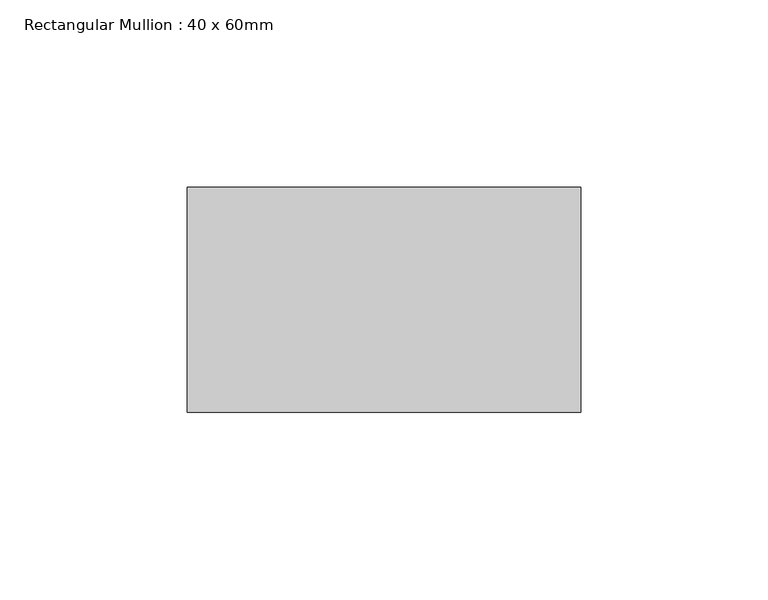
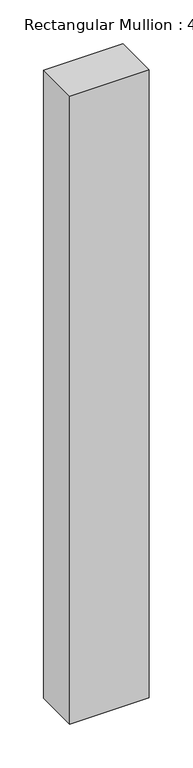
"""IFC4 building model written with IfcOpenShell, lengths in millimetres: member geometry, Rectangular Mullion : 40 x 60mm."""

import ifcopenshell
import ifcopenshell.guid

model = None  # the IFC model being written
_history = None  # IfcOwnerHistory: only IFC2X3 demands one
_inside = {}  # id of a spatial element -> (the spatial element, [elements in it])
_under = {}  # id of a project, library or spatial element -> (it, [spatial elements below it])
_declared = {}  # id of a project -> (the project, [libraries it declares])
_typed = {}  # id of a type object -> (the type object, [elements of that type])
_made_of = {}  # id of a material, layer set ... -> (it, [elements and type objects made of it])


def new_model(schema):
    """Start an empty IFC model of exactly this schema.

    Asked for "IFC4X3", IfcOpenShell would pick the latest addendum, in which some entities
    have other attributes; the version numbers below select the first issue.
    IFC2X3 requires an IfcOwnerHistory on every rooted entity: one is made here for all.
    """
    global model, _history
    if schema == "IFC4X3":
        model = ifcopenshell.file(schema_version=(4, 3, 0, 0))
    else:
        model = ifcopenshell.file(schema=schema)
    _inside.clear()
    _under.clear()
    _declared.clear()
    _typed.clear()
    _made_of.clear()
    _history = None
    if model.schema == "IFC2X3":
        org = make("IfcOrganization", Name="unknown")
        user = make(
            "IfcPersonAndOrganization",
            ThePerson=make("IfcPerson", FamilyName="unknown"),
            TheOrganization=org,
        )
        app = make(
            "IfcApplication",
            ApplicationDeveloper=org,
            Version="unknown",
            ApplicationFullName="unknown",
            ApplicationIdentifier="unknown",
        )
        _history = make(
            "IfcOwnerHistory",
            OwningUser=user,
            OwningApplication=app,
            ChangeAction="ADDED",
            CreationDate=0,
        )
    return model


def make(cls, **values):
    """One entity of the class cls with the attributes given. An attribute that is None is left unset."""
    return model.create_entity(
        cls, **{name: value for name, value in values.items() if value is not None}
    )


def rooted(cls, **values):
    """An entity with a GlobalId (a new one), such as an element, a storey or a relation."""
    return make(cls, GlobalId=ifcopenshell.guid.new(), OwnerHistory=_history, **values)


def si_unit(unit_type, name, prefix=None):
    """IfcSIUnit, for example si_unit("LENGTHUNIT", "METRE", prefix="MILLI")."""
    return make("IfcSIUnit", UnitType=unit_type, Prefix=prefix, Name=name)


def assignment(units):
    """IfcUnitAssignment: the units of a project."""
    return None if units is None else make("IfcUnitAssignment", Units=units)


def point(xyz):
    """IfcCartesianPoint."""
    return None if xyz is None else make("IfcCartesianPoint", Coordinates=xyz)


def direction(xyz):
    """IfcDirection."""
    return None if xyz is None else make("IfcDirection", DirectionRatios=xyz)


def frame(location, z_axis=None, x_axis=None):
    """IfcAxis2Placement3D, a coordinate frame: its origin and axes. An axis left out is left unset."""
    return make(
        "IfcAxis2Placement3D",
        Location=point(location),
        Axis=direction(z_axis),
        RefDirection=direction(x_axis),
    )


def origin():
    """The frame at (0, 0, 0) with its axes left unset."""
    return frame((0.0, 0.0, 0.0))


def place(relative_to, where):
    """IfcLocalPlacement: puts the frame where relative to a parent placement (None: the world)."""
    return make(
        "IfcLocalPlacement", PlacementRelTo=relative_to, RelativePlacement=where
    )


def context(
    kind, dimensions, precision=None, world=None, true_north=None, identifier=None
):
    """IfcGeometricRepresentationContext, for example the 3D "Model" context."""
    return make(
        "IfcGeometricRepresentationContext",
        ContextIdentifier=identifier,
        ContextType=kind,
        CoordinateSpaceDimension=dimensions,
        Precision=precision,
        WorldCoordinateSystem=world,
        TrueNorth=true_north,
    )


def project(units=None, contexts=None):
    """IfcProject with its units and contexts."""
    return rooted(
        "IfcProject",
        Name="project",
        RepresentationContexts=contexts,
        UnitsInContext=assignment(units),
    )


def spatial(cls, under=None, at=None, **own):
    """A site, building, storey or space (cls), placed at a placement, below another one or the project."""
    s = rooted(cls, ObjectPlacement=at, **own)
    if under is not None:
        _under.setdefault(under.id(), (under, []))[1].append(s)
    return s


def polyline(points):
    """IfcPolyline through the points."""
    return make("IfcPolyline", Points=[point(p) for p in points])


def outline(outer, holes=None, kind="AREA"):
    """IfcArbitraryClosedProfileDef: a profile drawn as a closed curve; with holes, ...WithVoids."""
    if holes is None:
        return make("IfcArbitraryClosedProfileDef", ProfileType=kind, OuterCurve=outer)
    return make(
        "IfcArbitraryProfileDefWithVoids",
        ProfileType=kind,
        OuterCurve=outer,
        InnerCurves=holes,
    )


def extrude(swept, where, along, depth):
    """IfcExtrudedAreaSolid: the profile swept, set in the frame where, extruded along a direction by depth."""
    return make(
        "IfcExtrudedAreaSolid",
        SweptArea=swept,
        Position=where,
        ExtrudedDirection=direction(along),
        Depth=depth,
    )


def shape(context_of_items, identifier, shape_type, items):
    """IfcShapeRepresentation: the items that make up one representation, for example the "Body"."""
    return make(
        "IfcShapeRepresentation",
        ContextOfItems=context_of_items,
        RepresentationIdentifier=identifier,
        RepresentationType=shape_type,
        Items=items,
    )


def source(mapping_origin, context_of_items, identifier, shape_type, items):
    """IfcRepresentationMap: a shape defined once, which mapped items show again and again."""
    return make(
        "IfcRepresentationMap",
        MappingOrigin=mapping_origin,
        MappedRepresentation=shape(context_of_items, identifier, shape_type, items),
    )


def transform(
    local_origin,
    x_axis=None,
    y_axis=None,
    z_axis=None,
    scale=None,
    scale2=None,
    scale3=None,
    uniform=True,
):
    """IfcCartesianTransformationOperator3D, or its non-uniform kind. x_axis, y_axis, z_axis: its Axis1, 2, 3."""
    if uniform:
        return make(
            "IfcCartesianTransformationOperator3D",
            Axis1=direction(x_axis),
            Axis2=direction(y_axis),
            LocalOrigin=point(local_origin),
            Scale=scale,
            Axis3=direction(z_axis),
        )
    return make(
        "IfcCartesianTransformationOperator3DnonUniform",
        Axis1=direction(x_axis),
        Axis2=direction(y_axis),
        LocalOrigin=point(local_origin),
        Scale=scale,
        Axis3=direction(z_axis),
        Scale2=scale2,
        Scale3=scale3,
    )


def mapped(mapping_source, mapping_target):
    """IfcMappedItem: shows the shape of a source again, moved by a transform."""
    return make(
        "IfcMappedItem", MappingSource=mapping_source, MappingTarget=mapping_target
    )


def made_of(thing, what):
    """Note that an element or type object is made of a material, layer set ...; save() writes the relation."""
    if what is not None:
        _made_of.setdefault(what.id(), (what, []))[1].append(thing)
    return thing


def element(
    cls,
    number,
    at=None,
    inside=None,
    cuts=None,
    type_object=None,
    material=None,
    context=None,
    identifier="Body",
    shape_type=None,
    held_by="IfcProductDefinitionShape",
    body=None,
    shapes=None,
    **own,
):
    """One element of the class cls, such as IfcWall. Its Tag is "e" and its number.

    at: its placement. inside: the storey or other place that contains it. cuts: it is an
    opening in that element (IfcRelVoidsElement). A single representation is given by context,
    identifier, shape_type and body (its items); several are given by shapes. held_by: the class
    of the entity that holds the representations. save() writes the other relations.
    """
    e = rooted(cls, Tag="e%d" % number, ObjectPlacement=at, **own)
    if body is not None:
        shapes = [shape(context, identifier, shape_type, body)]
    if shapes is not None:
        e.Representation = make(held_by, Representations=shapes)
    if inside is not None:
        _inside.setdefault(inside.id(), (inside, []))[1].append(e)
    if cuts is not None:
        rooted(
            "IfcRelVoidsElement", RelatingBuildingElement=cuts, RelatedOpeningElement=e
        )
    if type_object is not None:
        _typed.setdefault(type_object.id(), (type_object, []))[1].append(e)
    return made_of(e, material)


def aggregate(whole, parts):
    """IfcRelAggregates: a whole, such as a stair, and the parts it consists of."""
    return rooted("IfcRelAggregates", RelatingObject=whole, RelatedObjects=parts)


def save(model, path):
    """Write the relations noted so far, then the file.

    IfcRelAggregates (storeys below a building ...), IfcRelContainedInSpatialStructure (elements
    in a storey), IfcRelDefinesByType, IfcRelAssociatesMaterial and IfcRelDeclares: one each for
    every whole, place, type object, material and project.
    """
    for whole, parts in _under.values():
        aggregate(whole, parts)
    for where, things in _inside.values():
        rooted(
            "IfcRelContainedInSpatialStructure",
            RelatedElements=things,
            RelatingStructure=where,
        )
    for kind, things in _typed.values():
        rooted("IfcRelDefinesByType", RelatedObjects=things, RelatingType=kind)
    for what, things in _made_of.values():
        rooted("IfcRelAssociatesMaterial", RelatedObjects=things, RelatingMaterial=what)
    for by, libraries in _declared.values():
        rooted("IfcRelDeclares", RelatingContext=by, RelatedDefinitions=libraries)
    model.write(path)


def rectangular_mullion_40_x_60mm_e11fd2e3(model_context):
    return source(origin(), model_context, "Body", "SweptSolid", [
        extrude(outline(polyline([(0.0, -10.0), (0.0, -70.0), (-105.0, -70.0), (-105.0, -10.0), (0.0, -10.0)])), frame((0.0, 0.0, -877.5278286), z_axis=(0.0, 0.0, 1.0), x_axis=(1.0, 0.0, 0.0)), (0.0, 0.0, 1.0), 877.5278286),
    ])


if __name__ == "__main__":
    model = new_model("IFC4")
    model_context = context("Model", 3, world=origin())
    ifc_project = project(units=[si_unit("LENGTHUNIT", "METRE", prefix="MILLI")], contexts=[model_context])
    site = spatial("IfcSite", under=ifc_project)
    building = spatial("IfcBuilding", under=site)
    placement = place(None, origin())
    rectangular_mullion_40_x_60mm_shape = rectangular_mullion_40_x_60mm_e11fd2e3(model_context)
    element("IfcMember", 1, ObjectType="Rectangular Mullion : 40 x 60mm", at=placement, inside=building, context=model_context, shape_type="MappedRepresentation", body=[
        mapped(rectangular_mullion_40_x_60mm_shape, transform((0.0, 0.0, 0.0), x_axis=(1.0, 0.0, 0.0), y_axis=(0.0, 1.0, 0.0), z_axis=(0.0, 0.0, 1.0))),
    ])
    save(model, "model.ifc")
